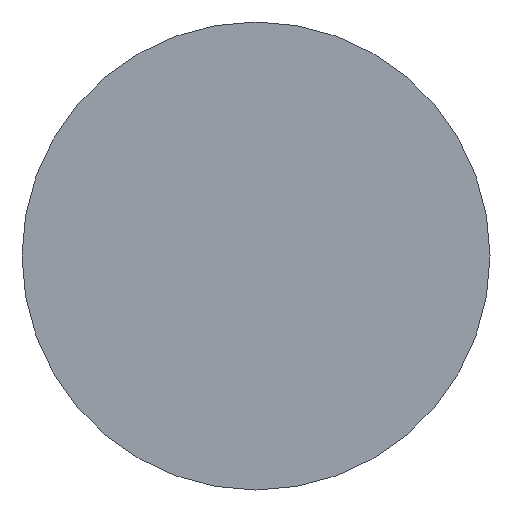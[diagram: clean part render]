
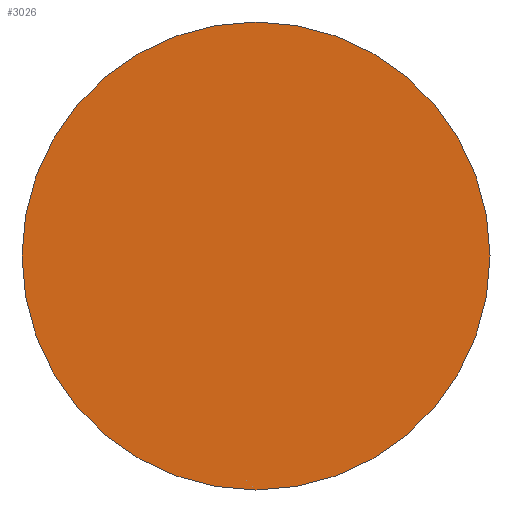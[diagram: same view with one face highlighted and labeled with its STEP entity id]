
A CAD part, front view. The second image highlights one B-rep face of the part: STEP entity #3026.
In plain terms, the highlighted planar face has unit normal (0, -1, 0).
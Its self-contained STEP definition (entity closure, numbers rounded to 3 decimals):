
#352 = AXIS2_PLACEMENT_3D ( 'NONE', #1767, #1039, #2215 ) ;
#367 = EDGE_LOOP ( 'NONE', ( #1117, #2547 ) ) ;
#478 = AXIS2_PLACEMENT_3D ( 'NONE', #992, #1688, #948 ) ;
#727 = CIRCLE ( 'NONE', #478, 161. ) ;
#843 = DIRECTION ( 'NONE',  ( 1., 0., 0. ) ) ;
#856 = DIRECTION ( 'NONE',  ( 0., 1., 0. ) ) ;
#948 = DIRECTION ( 'NONE',  ( 0., 0., 1. ) ) ;
#992 = CARTESIAN_POINT ( 'NONE',  ( 0., -4., 0. ) ) ;
#1039 = DIRECTION ( 'NONE',  ( 0., 1., 0. ) ) ;
#1082 = FACE_OUTER_BOUND ( 'NONE', #367, .T. ) ;
#1108 = AXIS2_PLACEMENT_3D ( 'NONE', #2958, #856, #843 ) ;
#1117 = ORIENTED_EDGE ( 'NONE', *, *, #1891, .F. ) ;
#1525 = CIRCLE ( 'NONE', #352, 161. ) ;
#1688 = DIRECTION ( 'NONE',  ( 0., 1., 0. ) ) ;
#1767 = CARTESIAN_POINT ( 'NONE',  ( 0., -4., 0. ) ) ;
#1891 = EDGE_CURVE ( 'NONE', #2232, #2388, #1525, .T. ) ;
#2151 = CARTESIAN_POINT ( 'NONE',  ( 0., -4., 161. ) ) ;
#2215 = DIRECTION ( 'NONE',  ( 0., 0., 1. ) ) ;
#2232 = VERTEX_POINT ( 'NONE', #2882 ) ;
#2388 = VERTEX_POINT ( 'NONE', #2151 ) ;
#2547 = ORIENTED_EDGE ( 'NONE', *, *, #2668, .F. ) ;
#2668 = EDGE_CURVE ( 'NONE', #2388, #2232, #727, .T. ) ;
#2882 = CARTESIAN_POINT ( 'NONE',  ( 0., -4., -161. ) ) ;
#2944 = PLANE ( 'NONE',  #1108 ) ;
#2958 = CARTESIAN_POINT ( 'NONE',  ( 0., -4., 0. ) ) ;
#3026 = ADVANCED_FACE ( 'NONE', ( #1082 ), #2944, .F. ) ;
